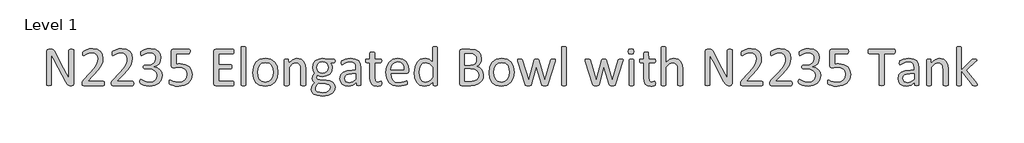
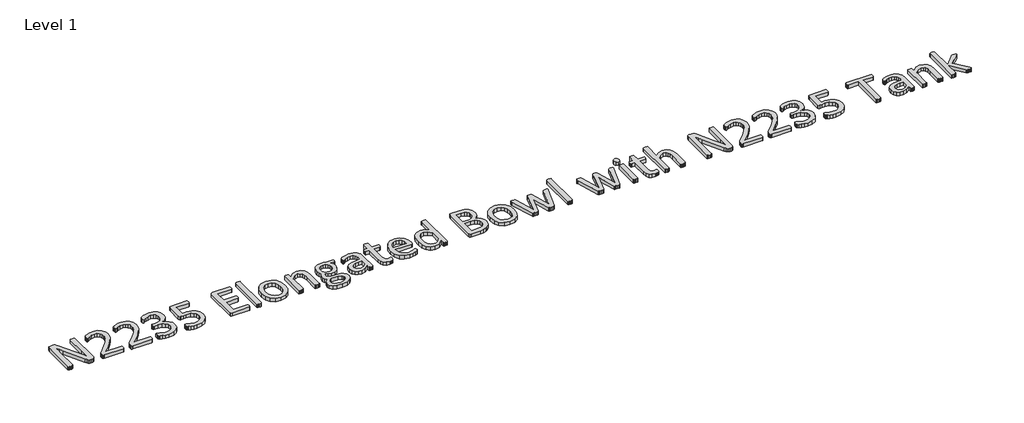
# One storey, part 1 of 2: 1 proxy.
"""IFC4 building model written with IfcOpenShell, lengths in millimetres."""

from ifc_helpers import new_model, si_unit, origin, origin_with_axes, place, context, project, spatial, polyline, outline, extrude, element, save

model = new_model("IFC4")

# Units and contexts
model_context = context("Model", 3, world=origin())
ifc_project = project(units=[si_unit("LENGTHUNIT", "METRE", prefix="MILLI")], contexts=[model_context])

# Site, building, storey
site = spatial("IfcSite", under=ifc_project)
building = spatial("IfcBuilding", under=site)
storey = spatial("IfcBuildingStorey", under=building, Name="Level 1", Elevation=0.0)

# Proxy
placement = place(None, origin())
element("IfcBuildingElementProxy", 1, Name="150MM CALIBRI", ObjectType="150MM CALIBRI", at=placement, inside=storey, context=model_context, shape_type="SweptSolid", body=[
    extrude(outline(polyline([(15422.4142778, -15617.8285664), (15421.6298259, -15621.7059998), (15419.5902511, -15624.3507231), (15416.7662245, -15625.8523881), (15413.6732429, -15626.3006463), (15407.0390216, -15626.3006463), (15401.5926845, -15625.6506719), (15397.1549284, -15623.2749034), (15392.9637143, -15618.5906053), (15388.5707839, -15611.1495192), (15344.1932224, -15526.697675), (15337.2003946, -15512.9809741), (15330.6109991, -15499.0401442), (15330.6109991, -15515.8946524), (15330.6109991, -15533.0181155), (15330.6109991, -15622.6249291), (15330.1179151, -15624.1714198), (15328.4593597, -15625.3144782), (15325.3887911, -15626.0092784), (15320.5251897, -15626.3006463), (15315.6391753, -15626.0092784), (15312.6134325, -15625.3144782), (15311.0221159, -15624.1714198), (15310.5290319, -15622.6249291), (15310.5290319, -15485.5923983), (15313.1737552, -15479.0702416), (15318.956286, -15477.1203184), (15328.8627921, -15477.1203184), (15334.7125616, -15477.7030541), (15338.9261886, -15479.5857385), (15342.5346671, -15483.2390428), (15346.1207327, -15489.1336381), (15380.1883556, -15554.3552057), (15386.2846671, -15566.0099188), (15391.9103075, -15577.1939608), (15397.2894059, -15588.0418092), (15402.5564397, -15598.777593), (15402.3995493, -15579.9507487), (15402.3323106, -15561.1239045), (15402.3323106, -15480.7960356), (15404.4839499, -15478.0840735), (15407.5545186, -15477.3444475), (15412.5525974, -15477.1203184), (15417.2593085, -15477.3444475), (15420.3298772, -15478.0840735), (15421.9211938, -15479.2943707), (15422.4142778, -15617.8285664)])), origin_with_axes(), (0.0, 0.0, 1.0), 15.0),
    extrude(outline(polyline([(15548.643786, -15617.5596114), (15548.3524181, -15621.3473932), (15547.5679663, -15624.1041811), (15546.2231917, -15625.7627364), (15544.3405073, -15626.3006463), (15463.2954253, -15626.3006463), (15460.5386374, -15625.8972139), (15458.4990626, -15624.5524393), (15457.2439397, -15621.8404772), (15456.8405073, -15617.5147856), (15457.0198106, -15613.3908102), (15457.7818495, -15610.2754157), (15459.2611015, -15607.5634536), (15461.5920442, -15604.6946012), (15491.2667368, -15573.4958307), (15507.7402255, -15554.6017477), (15517.3329509, -15539.3833819), (15521.7707071, -15526.9218041), (15522.8241138, -15516.3877364), (15521.1655585, -15506.795011), (15516.3691958, -15498.8608409), (15508.5022645, -15493.4593297), (15497.6320032, -15491.4645807), (15484.7221671, -15493.2800264), (15474.6587706, -15497.2022856), (15467.4418136, -15501.1245448), (15463.116122, -15502.9399905), (15460.6058761, -15501.0573061), (15459.9559018, -15498.4125827), (15459.7093597, -15494.4230848), (15459.8214243, -15491.5766452), (15460.2248567, -15489.4698317), (15460.9644827, -15487.8336893), (15462.8023413, -15485.9061791), (15467.5538782, -15482.7459588), (15476.0035452, -15478.8236995), (15487.232413, -15475.5738276), (15500.0974233, -15474.2514659), (15518.9242675, -15477.3220346), (15532.3271876, -15485.7268758), (15540.2837706, -15498.1212149), (15542.9060811, -15513.1602774), (15541.6285452, -15527.3476493), (15536.2270339, -15542.6108409), (15524.3033659, -15560.8773625), (15503.638663, -15584.0298983), (15479.791327, -15609.0875315), (15544.161204, -15609.0875315), (15545.9542368, -15609.6254414), (15547.4334888, -15611.2167579), (15548.3524181, -15613.8614813), (15548.643786, -15617.5596114)])), origin_with_axes(), (0.0, 0.0, 1.0), 15.0),
    extrude(outline(polyline([(15669.1355893, -15617.5596114), (15668.8442214, -15621.3473932), (15668.0597696, -15624.1041811), (15666.714995, -15625.7627364), (15664.8323106, -15626.3006463), (15583.7872286, -15626.3006463), (15581.0304407, -15625.8972139), (15578.9908659, -15624.5524393), (15577.7357429, -15621.8404772), (15577.3323106, -15617.5147856), (15577.5116138, -15613.3908102), (15578.2736528, -15610.2754157), (15579.7529048, -15607.5634536), (15582.0838474, -15604.6946012), (15611.7585401, -15573.4958307), (15628.2320288, -15554.6017477), (15637.8247542, -15539.3833819), (15642.2625104, -15526.9218041), (15643.3159171, -15516.3877364), (15641.6573618, -15506.795011), (15636.8609991, -15498.8608409), (15628.9940677, -15493.4593297), (15618.1238065, -15491.4645807), (15605.2139704, -15493.2800264), (15595.1505739, -15497.2022856), (15587.9336169, -15501.1245448), (15583.6079253, -15502.9399905), (15581.0976794, -15501.0573061), (15580.447705, -15498.4125827), (15580.201163, -15494.4230848), (15580.3132276, -15491.5766452), (15580.7166599, -15489.4698317), (15581.456286, -15487.8336893), (15583.2941446, -15485.9061791), (15588.0456815, -15482.7459588), (15596.4953485, -15478.8236995), (15607.7242163, -15475.5738276), (15620.5892265, -15474.2514659), (15639.4160708, -15477.3220346), (15652.8189909, -15485.7268758), (15660.7755739, -15498.1212149), (15663.3978843, -15513.1602774), (15662.1203485, -15527.3476493), (15656.7188372, -15542.6108409), (15644.7951692, -15560.8773625), (15624.1304663, -15584.0298983), (15600.2831302, -15609.0875315), (15664.6530073, -15609.0875315), (15666.4460401, -15609.6254414), (15667.9252921, -15611.2167579), (15668.8442214, -15613.8614813), (15669.1355893, -15617.5596114)])), origin_with_axes(), (0.0, 0.0, 1.0), 15.0),
    extrude(outline(polyline([(15786.7585401, -15584.2540274), (15783.2397132, -15602.7895039), (15773.1763167, -15616.93205), (15756.9941958, -15625.9868655), (15735.2536733, -15629.1694987), (15721.4921466, -15627.9367887), (15710.1063884, -15624.9782846), (15701.8584376, -15621.4370448), (15697.7344622, -15618.7923215), (15696.4345134, -15617.1337661), (15695.6500616, -15615.1166043), (15695.1345647, -15612.2253389), (15694.9552614, -15608.0565377), (15695.7621261, -15602.1395295), (15698.0930688, -15600.4809741), (15702.1946313, -15602.2964198), (15710.0839755, -15606.2186791), (15721.3352563, -15610.1409383), (15735.6122798, -15611.956384), (15749.0600257, -15609.9840479), (15758.7872286, -15604.4480592), (15764.7042368, -15595.9759793), (15766.6765729, -15585.2850213), (15764.143914, -15573.8320243), (15756.7476538, -15565.0685766), (15744.756747, -15559.4205233), (15728.5746261, -15557.4481873), (15714.1407122, -15557.4481873), (15712.3028536, -15557.0895807), (15710.7563628, -15555.8792836), (15709.7029561, -15553.6604055), (15709.2995237, -15550.051927), (15709.6581302, -15546.7572293), (15710.6667112, -15544.6280028), (15712.1459632, -15543.4625315), (15714.0510606, -15543.103925), (15727.4091548, -15543.103925), (15741.4620493, -15541.109176), (15751.9961169, -15535.3490582), (15758.6303382, -15526.3614813), (15760.9388679, -15514.6843553), (15759.3923772, -15505.7416043), (15754.7529048, -15498.2781053), (15746.8411477, -15493.2800264), (15735.7467573, -15491.4645807), (15723.0834632, -15493.2800264), (15712.7959376, -15497.2022856), (15705.3100257, -15501.1245448), (15701.1412245, -15502.9399905), (15698.0034171, -15499.1297959), (15697.8241138, -15495.0954721), (15697.9361784, -15492.0697293), (15698.4068495, -15489.7836125), (15699.2361272, -15488.0354055), (15700.8050309, -15486.1527211), (15705.2651999, -15483.0149137), (15713.5803895, -15478.9805899), (15724.9885606, -15475.6186534), (15738.8845647, -15474.2514659), (15757.2855636, -15476.9410151), (15770.4867675, -15484.5614045), (15778.3985247, -15496.350595), (15781.0208352, -15511.5465479), (15779.1605636, -15524.8598164), (15773.7142265, -15535.7524905), (15764.9283659, -15543.843551), (15752.9150462, -15548.4830233), (15766.6093341, -15552.5845858), (15777.2778792, -15560.2722139), (15784.2482942, -15571.0528235), (15786.7585401, -15584.2540274)])), origin_with_axes(), (0.0, 0.0, 1.0), 15.0),
    extrude(outline(polyline([(15910.1191958, -15579.6817938), (15906.0624591, -15600.7275161), (15894.5870493, -15616.2596627), (15876.9256763, -15625.874801), (15854.131747, -15629.1694987), (15840.9305431, -15628.1833307), (15829.8137399, -15625.7403235), (15821.8123311, -15622.893884), (15817.8228331, -15620.6750059), (15816.612536, -15619.150928), (15815.9625616, -15617.4699598), (15815.5591292, -15614.9821268), (15815.4470647, -15611.3736483), (15815.6263679, -15607.8324086), (15816.2763423, -15605.2773368), (15817.3969878, -15603.8204977), (15822.4847184, -15604.6946012), (15829.1189397, -15607.6082795), (15839.4512911, -15610.5667836), (15854.0869212, -15611.956384), (15868.5432481, -15610.1409383), (15879.8617675, -15604.4256463), (15887.3252665, -15594.6536176), (15890.0372286, -15580.3541811), (15887.7735247, -15567.8477774), (15880.8255227, -15558.8377877), (15868.9466804, -15553.4811022), (15851.7559786, -15551.7104823), (15839.5857686, -15552.4052825), (15830.1051077, -15553.1000827), (15825.4432224, -15551.5984178), (15824.053622, -15545.7934741), (15824.053622, -15484.6510561), (15825.8466548, -15478.9805899), (15831.0016241, -15477.1203184), (15897.1197081, -15477.1203184), (15898.9127409, -15477.6358153), (15900.3471671, -15479.1823061), (15901.2212706, -15481.8270295), (15901.5126384, -15485.5923983), (15900.4144059, -15492.0473164), (15897.3438372, -15494.3334332), (15844.1355893, -15494.3334332), (15844.1355893, -15538.1730848), (15852.0025206, -15537.4782846), (15861.2590524, -15537.36622), (15882.5737296, -15540.3919629), (15897.7696825, -15548.9312815), (15906.9813884, -15562.2893758), (15910.1191958, -15579.6817938)])), origin_with_axes(), (0.0, 0.0, 1.0), 15.0),
    extrude(outline(polyline([(16082.2503434, -15617.7389147), (16082.0262143, -15621.5491094), (16081.2193495, -15624.2610715), (16079.8745749, -15625.8299752), (16078.2160196, -15626.3006463), (16006.4498823, -15626.3006463), (16001.4293905, -15624.5076135), (15999.053622, -15618.2319987), (15999.053622, -15485.1889659), (16001.4518034, -15478.9133512), (16006.5395339, -15477.1203184), (16078.2608454, -15477.1203184), (16079.9642265, -15477.5909895), (16081.1969366, -15479.1598932), (16081.9589755, -15481.8718553), (16082.2503434, -15485.9061791), (16081.9589755, -15489.6939608), (16081.1969366, -15492.3610971), (16079.9642265, -15493.862762), (16078.2608454, -15494.3334332), (16019.1355893, -15494.3334332), (16019.1355893, -15540.2350725), (16069.6991138, -15540.2350725), (16071.3576692, -15540.7953952), (16072.6576179, -15542.341886), (16073.4196569, -15545.0538481), (16073.643786, -15549.1554106), (16073.4196569, -15552.9880182), (16072.6576179, -15555.5879157), (16071.3576692, -15557.022342), (16069.6991138, -15557.4481873), (16019.1355893, -15557.4481873), (16019.1355893, -15609.0875315), (16078.2160196, -15609.0875315), (16079.8969878, -15609.5582026), (16081.2193495, -15611.0598676), (16082.0262143, -15613.7270039), (16082.2503434, -15617.7389147)])), origin_with_axes(), (0.0, 0.0, 1.0), 15.0),
    extrude(outline(polyline([(16131.0208352, -15622.7594065), (16130.5277511, -15624.2834844), (16128.9364345, -15625.381717), (16125.9106917, -15626.0765172), (16120.9350257, -15626.3006463), (16116.0490114, -15626.0765172), (16112.9560298, -15625.381717), (16111.3647132, -15624.2834844), (16111.3647132, -15469.3206258), (16111.3647132, -15467.7068963), (16112.9560298, -15466.5638379), (16116.0490114, -15465.8690377), (16120.9350257, -15465.6449086), (16125.9106917, -15465.8690377), (16128.9364345, -15466.5638379), (16130.5277511, -15467.7068963), (16131.0208352, -15469.3206258), (16131.0208352, -15622.7594065)])), origin_with_axes(), (0.0, 0.0, 1.0), 15.0),
    extrude(outline(polyline([(16262.9880483, -15570.6718041), (16259.6709376, -15594.1829465), (16249.7420186, -15612.69601), (16233.2012911, -15624.8213942), (16210.1832327, -15629.1694987), (16187.994452, -15625.3368911), (16172.2157634, -15614.197675), (16162.8023413, -15596.4466504), (16159.7093597, -15572.7786176), (16162.9816446, -15549.2674752), (16172.8433249, -15530.7768245), (16189.3168136, -15518.7186791), (16212.3796979, -15514.4154004), (16234.5908915, -15518.2480079), (16250.36958, -15529.3872241), (16259.827828, -15547.1382487), (16262.9880483, -15570.6718041)]), holes=[polyline([(16242.9060811, -15572.0165786), (16241.3595903, -15556.4396063), (16236.2718597, -15543.5745961), (16226.7015472, -15534.8335612), (16211.6176589, -15531.6285151), (16197.2958095, -15534.5646063), (16187.4341292, -15542.8573829), (16181.6740114, -15555.5430899), (16179.791327, -15571.5683204), (16181.3378177, -15587.2349444), (16186.4703741, -15600.0551289), (16196.1079253, -15608.7513379), (16211.1694007, -15611.956384), (16225.4464243, -15609.0202928), (16235.3753434, -15600.7947549), (16241.0906354, -15588.1538737), (16242.9060811, -15572.0165786)])]), origin_with_axes(), (0.0, 0.0, 1.0), 15.0),
    extrude(outline(polyline([(16377.7421466, -15622.7594065), (16377.2490626, -15624.2834844), (16375.657746, -15625.381717), (16372.6320032, -15626.0765172), (16367.7459888, -15626.3006463), (16362.7703229, -15626.0765172), (16359.74458, -15625.4041299), (16358.1532634, -15624.3283102), (16357.6601794, -15622.7594065), (16357.6601794, -15562.8721114), (16356.3378177, -15548.7968041), (16352.5052102, -15539.5850981), (16345.9830534, -15533.6680899), (16336.7265216, -15531.6285151), (16323.1218854, -15536.626594), (16308.8896876, -15551.30705), (16308.8896876, -15622.7594065), (16308.3966036, -15624.3283102), (16306.805287, -15625.4041299), (16303.7795442, -15626.0765172), (16298.8038782, -15626.3006463), (16293.9178638, -15626.0765172), (16290.8248823, -15625.4041299), (16289.2335657, -15624.3283102), (16288.8077204, -15520.7806668), (16290.6231661, -15518.1359434), (16293.4247798, -15517.4635561), (16297.9521876, -15517.2842528), (16302.3899438, -15517.4635561), (16305.1243188, -15518.1359434), (16306.5363321, -15519.2565889), (16306.9621774, -15534.2732385), (16324.1080534, -15519.1893502), (16341.3435811, -15514.4154004), (16358.4670442, -15517.9118143), (16369.7183249, -15527.2579977), (16375.8818751, -15540.9522856), (16377.7421466, -15559.8239557), (16377.7421466, -15622.7594065)])), origin_with_axes(), (0.0, 0.0, 1.0), 15.0),
    extrude(outline(polyline([(16498.2339499, -15524.5012098), (16497.1357173, -15529.9475469), (16494.3341036, -15531.6285151), (16479.4967573, -15531.6285151), (16485.1448106, -15540.9074598), (16486.7585401, -15551.4415274), (16483.8896876, -15567.3995192), (16475.6641497, -15579.143884), (16462.9336169, -15586.4729055), (16446.5946056, -15589.0055643), (16434.5588731, -15587.3245961), (16425.7505995, -15583.0885561), (16422.1645339, -15587.7728543), (16420.7749335, -15593.8467528), (16424.5851282, -15600.4809741), (16434.7157634, -15603.3498266), (16462.2388167, -15604.5152979), (16476.6727306, -15606.6893502), (16488.0360759, -15612.2253389), (16495.5444007, -15621.0336125), (16498.2339499, -15633.1589967), (16495.23062, -15647.0325879), (16486.018914, -15658.5976493), (16470.1953997, -15666.4645807), (16447.491122, -15669.3334332), (16425.9971415, -15667.1817938), (16411.4735759, -15661.3096114), (16403.248038, -15652.4116862), (16400.6929663, -15641.2276442), (16401.6118956, -15633.7641452), (16404.4359222, -15626.9057948), (16409.1426333, -15620.6974188), (16415.6199643, -15614.8252364), (16406.5203229, -15607.4513891), (16403.5618188, -15597.8362508), (16406.6099745, -15585.0833051), (16414.1407122, -15575.0199086), (16408.4926589, -15565.3823573), (16406.4306712, -15552.3380438), (16409.4115882, -15536.4024649), (16417.7043649, -15524.4787969), (16430.4348977, -15517.0152979), (16446.5946056, -15514.4154004), (16455.3804663, -15515.1774393), (16463.0456815, -15517.2842528), (16494.3341036, -15517.2842528), (16497.2477819, -15519.0548727), (16498.2339499, -15524.5012098)]), holes=[polyline([(16469.5454253, -15551.5760049), (16468.0325539, -15542.0000891), (16463.4939397, -15534.7887354), (16456.1649181, -15530.2669308), (16446.2808249, -15528.7596627), (16436.2846671, -15530.6423471), (16429.2021876, -15535.7973164), (16425.0109735, -15543.350467), (16423.643786, -15552.293218), (16425.1566574, -15561.6169885), (16429.6952716, -15568.699468), (16436.9570544, -15573.1708435), (16446.6394315, -15574.661302), (16456.8373054, -15572.8458563), (16463.9870237, -15567.8029516), (16468.1782378, -15560.3618655), (16469.5454253, -15551.5760049)]), polyline([(16478.1519827, -15633.7865582), (16476.7623823, -15627.4717208), (16472.5935811, -15622.7818194), (16457.5769315, -15618.6802569), (16430.3228331, -15617.6940889), (16424.1592829, -15623.5214454), (16420.3490882, -15628.8108922), (16418.421578, -15633.7641452), (16417.9060811, -15638.80705), (16419.8335913, -15645.8166875), (16425.616122, -15650.8876084), (16447.1325155, -15654.9891709), (16461.8353843, -15653.218551), (16471.3832839, -15648.489427), (16476.583079, -15641.7431411), (16478.1519827, -15633.7865582)])]), origin_with_axes(), (0.0, 0.0, 1.0), 15.0),
    extrude(outline(polyline([(16604.3814909, -15622.8490582), (16603.3953229, -15624.9334588), (16600.7057737, -15625.9644526), (16595.6852819, -15626.3006463), (16590.5975513, -15625.9644526), (16587.8407634, -15624.9334588), (16586.9890729, -15622.8490582), (16586.9890729, -15612.5391196), (16571.8827716, -15624.4627877), (16554.2213987, -15629.1694987), (16539.4064653, -15627.0402723), (16528.1327716, -15620.8767221), (16520.8934018, -15610.9702159), (16518.3159171, -15597.6121217), (16521.8795698, -15582.4161688), (16532.0998567, -15571.7027979), (16548.3940421, -15565.3151186), (16570.0897388, -15563.1858922), (16584.2995237, -15563.1858922), (16584.2995237, -15554.6241606), (16583.0444007, -15543.4177057), (16579.010077, -15535.3042323), (16571.8155329, -15530.418218), (16560.9452716, -15528.7596627), (16548.5061067, -15530.5526954), (16538.8685554, -15534.4973676), (16531.9429663, -15538.4420397), (16527.8189909, -15540.2350725), (16526.2052614, -15539.7644014), (16525.0173772, -15538.3299752), (16524.2777511, -15535.8645551), (16524.053622, -15532.5698573), (16524.4570544, -15527.8631463), (16526.4293905, -15524.5684485), (16531.8084888, -15521.206512), (16540.5943495, -15517.8894014), (16551.4646108, -15515.4015684), (16563.3658659, -15514.4154004), (16582.4168393, -15516.9480592), (16595.1249591, -15524.3443194), (16602.1850257, -15536.4248778), (16604.3814909, -15553.279386), (16604.3814909, -15622.8490582)]), holes=[polyline([(16584.2995237, -15577.5301545), (16568.3415319, -15577.5301545), (16555.0282634, -15578.8525161), (16545.6372542, -15582.7523625), (16540.1460913, -15588.9383256), (16538.3978843, -15597.2535151), (16543.4183761, -15610.0736995), (16557.4936835, -15614.8252364), (16571.1207327, -15611.0374547), (16584.2995237, -15599.4499803), (16584.2995237, -15577.5301545)])]), origin_with_axes(), (0.0, 0.0, 1.0), 15.0),
    extrude(outline(polyline([(16690.4470647, -15615.9907077), (16689.9988065, -15621.5939352), (16688.631619, -15624.6420909), (16685.897244, -15626.4799495), (16681.7508556, -15627.8919629), (16676.7976026, -15628.8108922), (16671.5753946, -15629.1694987), (16657.9259325, -15626.9954465), (16648.6245749, -15620.4284639), (16643.3351282, -15609.2892477), (16641.6765729, -15593.3536688), (16641.6765729, -15531.6285151), (16628.0495237, -15531.6285151), (16625.4272132, -15529.9475469), (16624.4634581, -15524.5012098), (16624.732413, -15521.1616862), (16625.4272132, -15518.8979823), (16626.5702716, -15517.6428594), (16628.1391753, -15517.2842528), (16641.6765729, -15517.2842528), (16641.6765729, -15492.3162713), (16643.6937347, -15489.5818963), (16646.7867163, -15488.8198573), (16651.6727306, -15488.5957282), (16656.6483966, -15488.8198573), (16659.6741395, -15489.5818963), (16661.2654561, -15490.8146063), (16661.7585401, -15517.2842528), (16686.8609991, -15517.2842528), (16689.5057224, -15518.8979823), (16690.2229356, -15521.1616862), (16690.4470647, -15524.5012098), (16689.4608966, -15529.9475469), (16686.8609991, -15531.6285151), (16661.7585401, -15531.6285151), (16661.7585401, -15590.081384), (16664.7394571, -15606.4203952), (16668.9026551, -15610.5723868), (16675.4304151, -15611.956384), (16679.8905841, -15611.440887), (16683.3645852, -15610.3650674), (16685.9868956, -15609.2668348), (16687.9368188, -15608.728925), (16690.2229356, -15612.3598164), (16690.4470647, -15615.9907077)])), origin_with_axes(), (0.0, 0.0, 1.0), 15.0),
    extrude(outline(polyline([(16802.3323106, -15566.458177), (16800.1134325, -15572.7786176), (16795.025702, -15574.661302), (16727.7421466, -15574.661302), (16729.4231149, -15591.2468553), (16735.0039294, -15603.8877364), (16745.1793905, -15612.0012098), (16760.5098208, -15614.8252364), (16773.2403536, -15613.5028748), (16782.9227306, -15610.5219577), (16789.6241907, -15607.5410407), (16793.5912757, -15606.2186791), (16796.4377153, -15609.8047446), (16796.5946056, -15613.0770295), (16796.4825411, -15615.4752108), (16796.1911733, -15617.2906565), (16794.6222696, -15619.9802057), (16790.9689653, -15622.1542579), (16783.1020339, -15625.2472395), (16771.895579, -15627.9592016), (16758.3133556, -15629.1694987), (16736.4159427, -15625.5834332), (16720.6148413, -15614.9148881), (16710.9324643, -15597.1414506), (16707.6601794, -15572.3303594), (16711.0893546, -15548.1244168), (16720.9734479, -15529.925134), (16736.5728331, -15518.4273112), (16757.0582327, -15514.4154004), (16777.6781097, -15518.2928338), (16791.6861784, -15528.7372498), (16799.7548259, -15544.1349188), (16802.3323106, -15563.0065889), (16802.3323106, -15566.458177)]), holes=[polyline([(16782.2503434, -15560.3170397), (16780.7991074, -15547.1550584), (16775.8178382, -15537.1645039), (16767.4298067, -15530.860873), (16755.7582839, -15528.7596627), (16743.812203, -15531.3595602), (16735.2280585, -15538.2851493), (16729.8713731, -15548.3485459), (16727.7421466, -15560.3170397), (16782.2503434, -15560.3170397)])]), origin_with_axes(), (0.0, 0.0, 1.0), 15.0),
    extrude(outline(polyline([(16919.9552614, -15622.7145807), (16919.5294161, -15624.3507231), (16918.072577, -15625.4489557), (16915.3606149, -15626.0765172), (16911.2590524, -15626.3006463), (16907.0005995, -15626.0765172), (16904.2213987, -15625.4937815), (16902.652495, -15624.4852006), (16902.159411, -15610.2530028), (16885.506619, -15624.1714198), (16866.612536, -15629.1694987), (16847.5167368, -15624.7093297), (16834.7189653, -15612.6511842), (16827.5468341, -15594.7656821), (16825.2831302, -15573.1372241), (16828.1071569, -15548.819217), (16836.4447593, -15530.3061534), (16850.1166343, -15518.5393758), (16868.9883044, -15514.4154004), (16885.2824899, -15518.4273112), (16899.8732942, -15530.1940889), (16899.8732942, -15469.3654516), (16900.2991395, -15467.7965479), (16901.9352819, -15466.6310766), (16905.0282634, -15465.9362764), (16909.7798003, -15465.6449086), (16914.7554663, -15465.9362764), (16917.7812091, -15466.6310766), (16919.4173515, -15467.774135), (16919.9552614, -15469.3206258), (16919.9552614, -15622.7145807)]), holes=[polyline([(16899.8732942, -15550.6346627), (16885.4842061, -15536.4921166), (16871.0054663, -15531.6285151), (16859.1266241, -15535.0352774), (16851.192454, -15544.0228543), (16846.7546979, -15556.6637354), (16845.3650974, -15570.9855848), (16846.5305688, -15586.1367118), (16850.5873054, -15599.270677), (16858.2525206, -15608.4823829), (16870.2434274, -15611.956384), (16877.2810811, -15610.947803), (16884.2290831, -15607.6082795), (16891.6477563, -15601.5567938), (16899.8732942, -15592.3675008), (16899.8732942, -15550.6346627)])]), origin_with_axes(), (0.0, 0.0, 1.0), 15.0),
    extrude(outline(polyline([(17109.2995237, -15584.11955), (17107.5289038, -15596.8949086), (17102.5532378, -15607.4289762), (17094.8431968, -15615.6096883), (17084.6677358, -15621.5266965), (17072.5423515, -15625.112762), (17057.7498311, -15626.3006463), (17019.0651487, -15626.3006463), (17014.1118956, -15624.5076135), (17011.7585401, -15618.2319987), (17011.7585401, -15485.1889659), (17014.1343085, -15478.9133512), (17019.1548003, -15477.1203184), (17053.04312, -15477.1203184), (17074.9853587, -15479.697803), (17089.2175565, -15487.1837149), (17097.8017009, -15499.2418604), (17100.6929663, -15515.4015684), (17099.4154304, -15525.689094), (17095.6724745, -15534.7663225), (17089.4416856, -15542.2074086), (17080.8351282, -15547.5865069), (17091.9519315, -15551.7328952), (17100.9619212, -15559.4205233), (17107.0582327, -15570.3356104), (17109.2995237, -15584.11955)]), holes=[polyline([(17080.6109991, -15518.0911176), (17079.1093341, -15508.1846114), (17074.4026231, -15500.6762866), (17066.0201948, -15495.9695756), (17052.3259069, -15494.3334332), (17031.8405073, -15494.3334332), (17031.8405073, -15543.103925), (17054.3878946, -15543.103925), (17066.8046466, -15541.0643502), (17074.6267522, -15535.5956002), (17079.1765729, -15527.5717784), (17080.6109991, -15518.0911176)]), polyline([(17089.2175565, -15584.2988532), (17087.1107429, -15572.7337918), (17080.9471927, -15564.3513635), (17070.7717317, -15559.1963942), (17055.3740626, -15557.4481873), (17031.8405073, -15557.4481873), (17031.8405073, -15609.0875315), (17060.3945544, -15609.0875315), (17072.183745, -15607.4962149), (17081.0368444, -15602.7895039), (17087.0435042, -15595.034637), (17089.2175565, -15584.2988532)])]), origin_with_axes(), (0.0, 0.0, 1.0), 15.0),
    extrude(outline(polyline([(17235.5290319, -15570.6718041), (17232.2119212, -15594.1829465), (17222.2830022, -15612.69601), (17205.7422747, -15624.8213942), (17182.7242163, -15629.1694987), (17160.5354356, -15625.3368911), (17144.756747, -15614.197675), (17135.3433249, -15596.4466504), (17132.2503434, -15572.7786176), (17135.5226282, -15549.2674752), (17145.3843085, -15530.7768245), (17161.8577972, -15518.7186791), (17184.9206815, -15514.4154004), (17207.1318751, -15518.2480079), (17222.9105636, -15529.3872241), (17232.3688116, -15547.1382487), (17235.5290319, -15570.6718041)]), holes=[polyline([(17215.4470647, -15572.0165786), (17213.9005739, -15556.4396063), (17208.8128434, -15543.5745961), (17199.2425309, -15534.8335612), (17184.1586425, -15531.6285151), (17169.8367931, -15534.5646063), (17159.9751128, -15542.8573829), (17154.214995, -15555.5430899), (17152.3323106, -15571.5683204), (17153.8788013, -15587.2349444), (17159.0113577, -15600.0551289), (17168.6489089, -15608.7513379), (17183.7103843, -15611.956384), (17197.9874079, -15609.0202928), (17207.916327, -15600.7947549), (17213.631619, -15588.1538737), (17215.4470647, -15572.0165786)])]), origin_with_axes(), (0.0, 0.0, 1.0), 15.0),
    extrude(outline(polyline([(17406.0016241, -15520.5565377), (17405.777495, -15522.5064608), (17404.9706302, -15525.3080745), (17374.5338987, -15622.2214967), (17373.4356661, -15624.2610715), (17371.3736784, -15625.4937815), (17367.7651999, -15626.121343), (17362.027495, -15626.3006463), (17356.0432481, -15626.0765172), (17352.2106405, -15625.4041299), (17350.081414, -15624.1938327), (17349.0280073, -15622.3111483), (17327.3323106, -15549.8277979), (17306.9813884, -15622.3111483), (17305.9055688, -15624.3058973), (17303.6642778, -15625.5386073), (17299.8316702, -15626.1437559), (17294.0267265, -15626.3006463), (17288.19937, -15626.0765172), (17284.5236528, -15625.4041299), (17282.4168393, -15624.1490069), (17281.3858454, -15622.2214967), (17251.1732429, -15525.3080745), (17250.3663782, -15522.5064608), (17250.1422491, -15520.5565377), (17250.5905073, -15518.9428082), (17252.1369981, -15517.9118143), (17255.0730893, -15517.3963174), (17259.5556712, -15517.2842528), (17264.7330534, -15517.4635561), (17267.7139704, -15518.0238789), (17269.1932224, -15519.1445243), (17270.0000872, -15520.9151442), (17294.9232429, -15605.1876852), (17318.2326692, -15520.9151442), (17319.017121, -15519.1445243), (17320.5636118, -15518.0238789), (17323.3652255, -15517.4635561), (17327.7805688, -15517.2842528), (17332.3303895, -15517.4635561), (17335.1320032, -15518.0238789), (17336.6336681, -15519.0996985), (17337.3284684, -15520.6910151), (17362.027495, -15605.1876852), (17386.9506507, -15520.9151442), (17387.6902768, -15519.1445243), (17389.3040063, -15518.0238789), (17392.2849233, -15517.4635561), (17397.1709376, -15517.2842528), (17401.5862809, -15517.3963174), (17404.2310042, -15517.9566401), (17405.5981917, -15518.987634), (17406.0016241, -15520.5565377)])), origin_with_axes(), (0.0, 0.0, 1.0), 15.0),
    extrude(outline(polyline([(17450.6929663, -15622.7594065), (17450.1998823, -15624.2834844), (17448.6085657, -15625.381717), (17445.5828229, -15626.0765172), (17440.6071569, -15626.3006463), (17435.7211425, -15626.0765172), (17432.628161, -15625.381717), (17431.0368444, -15624.2834844), (17431.0368444, -15469.3206258), (17431.0368444, -15467.7068963), (17432.628161, -15466.5638379), (17435.7211425, -15465.8690377), (17440.6071569, -15465.6449086), (17445.5828229, -15465.8690377), (17448.6085657, -15466.5638379), (17450.1998823, -15467.7068963), (17450.6929663, -15469.3206258), (17450.6929663, -15622.7594065)])), origin_with_axes(), (0.0, 0.0, 1.0), 15.0),
    extrude(outline(polyline([(17684.2803126, -15520.5565377), (17684.0561835, -15522.5064608), (17683.2493188, -15525.3080745), (17652.8125872, -15622.2214967), (17651.7143546, -15624.2610715), (17649.6523669, -15625.4937815), (17646.0438884, -15626.121343), (17640.3061835, -15626.3006463), (17634.3219366, -15626.0765172), (17630.489329, -15625.4041299), (17628.3601026, -15624.1938327), (17627.3066958, -15622.3111483), (17605.6109991, -15549.8277979), (17585.260077, -15622.3111483), (17584.1842573, -15624.3058973), (17581.9429663, -15625.5386073), (17578.1103587, -15626.1437559), (17572.3054151, -15626.3006463), (17566.4780585, -15626.0765172), (17562.8023413, -15625.4041299), (17560.6955278, -15624.1490069), (17559.6645339, -15622.2214967), (17529.4519315, -15525.3080745), (17528.6450667, -15522.5064608), (17528.4209376, -15520.5565377), (17528.8691958, -15518.9428082), (17530.4156866, -15517.9118143), (17533.3517778, -15517.3963174), (17537.8343597, -15517.2842528), (17543.0117419, -15517.4635561), (17545.9926589, -15518.0238789), (17547.471911, -15519.1445243), (17548.2787757, -15520.9151442), (17573.2019315, -15605.1876852), (17596.5113577, -15520.9151442), (17597.2958095, -15519.1445243), (17598.8423003, -15518.0238789), (17601.643914, -15517.4635561), (17606.0592573, -15517.2842528), (17610.609078, -15517.4635561), (17613.4106917, -15518.0238789), (17614.9123567, -15519.0996985), (17615.6071569, -15520.6910151), (17640.3061835, -15605.1876852), (17665.2293393, -15520.9151442), (17665.9689653, -15519.1445243), (17667.5826948, -15518.0238789), (17670.5636118, -15517.4635561), (17675.4496261, -15517.2842528), (17679.8649694, -15517.3963174), (17682.5096927, -15517.9566401), (17683.8768802, -15518.987634), (17684.2803126, -15520.5565377)])), origin_with_axes(), (0.0, 0.0, 1.0), 15.0),
    extrude(outline(polyline([(17728.9716548, -15485.5923983), (17726.5062347, -15494.7592784), (17717.3617675, -15497.2022856), (17708.4414294, -15494.8265172), (17706.0208352, -15485.8613532), (17708.4862552, -15476.6944731), (17717.6307224, -15474.2514659), (17726.5510606, -15476.6272344), (17728.9716548, -15485.5923983)])), origin_with_axes(), (0.0, 0.0, 1.0), 15.0),
    extrude(outline(polyline([(17728.9716548, -15622.8042323), (17728.4785708, -15624.3283102), (17726.8872542, -15625.4041299), (17723.8615114, -15626.0765172), (17718.8858454, -15626.3006463), (17713.9998311, -15626.0765172), (17710.9068495, -15625.4041299), (17709.3155329, -15624.3283102), (17708.8896876, -15520.7806668), (17710.9068495, -15518.1807692), (17713.9998311, -15517.5083819), (17718.8858454, -15517.2842528), (17723.8615114, -15517.5083819), (17726.8872542, -15518.1807692), (17728.4785708, -15519.3238276), (17728.9716548, -15622.8042323)])), origin_with_axes(), (0.0, 0.0, 1.0), 15.0),
    extrude(outline(polyline([(17817.9060811, -15615.9907077), (17817.4578229, -15621.5939352), (17816.0906354, -15624.6420909), (17813.3562604, -15626.4799495), (17809.209872, -15627.8919629), (17804.256619, -15628.8108922), (17799.034411, -15629.1694987), (17785.3849489, -15626.9954465), (17776.0835913, -15620.4284639), (17770.7941446, -15609.2892477), (17769.1355893, -15593.3536688), (17769.1355893, -15531.6285151), (17755.5085401, -15531.6285151), (17752.8862296, -15529.9475469), (17751.9224745, -15524.5012098), (17752.1914294, -15521.1616862), (17752.8862296, -15518.8979823), (17754.029288, -15517.6428594), (17755.5981917, -15517.2842528), (17769.1355893, -15517.2842528), (17769.1355893, -15492.3162713), (17771.1527511, -15489.5818963), (17774.2457327, -15488.8198573), (17779.131747, -15488.5957282), (17784.107413, -15488.8198573), (17787.1331559, -15489.5818963), (17788.7244724, -15490.8146063), (17789.2175565, -15517.2842528), (17814.3200155, -15517.2842528), (17816.9647388, -15518.8979823), (17817.681952, -15521.1616862), (17817.9060811, -15524.5012098), (17816.919913, -15529.9475469), (17814.3200155, -15531.6285151), (17789.2175565, -15531.6285151), (17789.2175565, -15590.081384), (17792.1984735, -15606.4203952), (17796.3616715, -15610.5723868), (17802.8894315, -15611.956384), (17807.3496005, -15611.440887), (17810.8236015, -15610.3650674), (17813.445912, -15609.2668348), (17815.3958352, -15608.728925), (17817.681952, -15612.3598164), (17817.9060811, -15615.9907077)])), origin_with_axes(), (0.0, 0.0, 1.0), 15.0),
    extrude(outline(polyline([(17929.791327, -15622.7594065), (17929.2982429, -15624.2834844), (17927.7069263, -15625.381717), (17924.6811835, -15626.0765172), (17919.7951692, -15626.3006463), (17914.8195032, -15626.0765172), (17911.7937604, -15625.4041299), (17910.2024438, -15624.3283102), (17909.7093597, -15622.7594065), (17909.7093597, -15562.8721114), (17908.3869981, -15548.7968041), (17904.5543905, -15539.5850981), (17898.0322337, -15533.6680899), (17888.775702, -15531.6285151), (17875.1710657, -15536.626594), (17860.9388679, -15551.30705), (17860.9388679, -15622.7594065), (17860.4457839, -15624.3283102), (17858.8544673, -15625.4041299), (17855.8287245, -15626.0765172), (17850.8530585, -15626.3006463), (17845.9670442, -15626.0765172), (17842.8740626, -15625.381717), (17841.282746, -15624.2834844), (17841.282746, -15469.3206258), (17841.282746, -15467.7068963), (17842.8740626, -15466.5638379), (17845.9670442, -15465.8690377), (17850.8530585, -15465.6449086), (17855.8287245, -15465.8690377), (17858.8544673, -15466.5638379), (17860.4457839, -15467.7293092), (17860.9388679, -15469.3206258), (17860.9388679, -15531.3595602), (17877.076163, -15518.5842016), (17893.4375872, -15514.4154004), (17910.5610503, -15517.9118143), (17921.7899181, -15527.2579977), (17927.9310554, -15540.9522856), (17929.791327, -15559.9136073), (17929.791327, -15622.7594065)])), origin_with_axes(), (0.0, 0.0, 1.0), 15.0),
    extrude(outline(polyline([(18133.4798515, -15617.8285664), (18132.6953997, -15621.7059998), (18130.6558249, -15624.3507231), (18127.8317983, -15625.8523881), (18124.7388167, -15626.3006463), (18118.1045954, -15626.3006463), (18112.6582583, -15625.6506719), (18108.2205022, -15623.2749034), (18104.029288, -15618.5906053), (18099.6363577, -15611.1495192), (18055.2587962, -15526.697675), (18048.2659684, -15512.9809741), (18041.6765729, -15499.0401442), (18041.6765729, -15515.8946524), (18041.6765729, -15533.0181155), (18041.6765729, -15622.6249291), (18041.1834888, -15624.1714198), (18039.5249335, -15625.3144782), (18036.4543649, -15626.0092784), (18031.5907634, -15626.3006463), (18026.7047491, -15626.0092784), (18023.6790063, -15625.3144782), (18022.0876897, -15624.1714198), (18021.5946056, -15622.6249291), (18021.5946056, -15485.5923983), (18024.239329, -15479.0702416), (18030.0218597, -15477.1203184), (18039.9283659, -15477.1203184), (18045.7781354, -15477.7030541), (18049.9917624, -15479.5857385), (18053.6002409, -15483.2390428), (18057.1863065, -15489.1336381), (18091.2539294, -15554.3552057), (18097.3502409, -15566.0099188), (18102.9758813, -15577.1939608), (18108.3549796, -15588.0418092), (18113.6220134, -15598.777593), (18113.4651231, -15579.9507487), (18113.3978843, -15561.1239045), (18113.3978843, -15480.7960356), (18115.5495237, -15478.0840735), (18118.6200923, -15477.3444475), (18123.6181712, -15477.1203184), (18128.3248823, -15477.3444475), (18131.3954509, -15478.0840735), (18132.9867675, -15479.2943707), (18133.4798515, -15617.8285664)])), origin_with_axes(), (0.0, 0.0, 1.0), 15.0),
    extrude(outline(polyline([(18259.7093597, -15617.5596114), (18259.4179919, -15621.3473932), (18258.6335401, -15624.1041811), (18257.2887655, -15625.7627364), (18255.4060811, -15626.3006463), (18174.3609991, -15626.3006463), (18171.6042112, -15625.8972139), (18169.5646364, -15624.5524393), (18168.3095134, -15621.8404772), (18167.9060811, -15617.5147856), (18168.0853843, -15613.3908102), (18168.8474233, -15610.2754157), (18170.3266753, -15607.5634536), (18172.6576179, -15604.6946012), (18202.3323106, -15573.4958307), (18218.8057993, -15554.6017477), (18228.3985247, -15539.3833819), (18232.8362809, -15526.9218041), (18233.8896876, -15516.3877364), (18232.2311323, -15506.795011), (18227.4347696, -15498.8608409), (18219.5678382, -15493.4593297), (18208.697577, -15491.4645807), (18195.7877409, -15493.2800264), (18185.7243444, -15497.2022856), (18178.5073874, -15501.1245448), (18174.1816958, -15502.9399905), (18171.6714499, -15501.0573061), (18171.0214755, -15498.4125827), (18170.7749335, -15494.4230848), (18170.8869981, -15491.5766452), (18171.2904304, -15489.4698317), (18172.0300565, -15487.8336893), (18173.8679151, -15485.9061791), (18178.619452, -15482.7459588), (18187.069119, -15478.8236995), (18198.2979868, -15475.5738276), (18211.162997, -15474.2514659), (18229.9898413, -15477.3220346), (18243.3927614, -15485.7268758), (18251.3493444, -15498.1212149), (18253.9716548, -15513.1602774), (18252.694119, -15527.3476493), (18247.2926077, -15542.6108409), (18235.3689397, -15560.8773625), (18214.7042368, -15584.0298983), (18190.8569007, -15609.0875315), (18255.2267778, -15609.0875315), (18257.0198106, -15609.6254414), (18258.4990626, -15611.2167579), (18259.4179919, -15613.8614813), (18259.7093597, -15617.5596114)])), origin_with_axes(), (0.0, 0.0, 1.0), 15.0),
    extrude(outline(polyline([(18380.201163, -15617.5596114), (18379.9097952, -15621.3473932), (18379.1253434, -15624.1041811), (18377.7805688, -15625.7627364), (18375.8978843, -15626.3006463), (18294.8528024, -15626.3006463), (18292.0960145, -15625.8972139), (18290.0564397, -15624.5524393), (18288.8013167, -15621.8404772), (18288.3978843, -15617.5147856), (18288.5771876, -15613.3908102), (18289.3392265, -15610.2754157), (18290.8184786, -15607.5634536), (18293.1494212, -15604.6946012), (18322.8241138, -15573.4958307), (18339.2976026, -15554.6017477), (18348.890328, -15539.3833819), (18353.3280841, -15526.9218041), (18354.3814909, -15516.3877364), (18352.7229356, -15506.795011), (18347.9265729, -15498.8608409), (18340.0596415, -15493.4593297), (18329.1893802, -15491.4645807), (18316.2795442, -15493.2800264), (18306.2161477, -15497.2022856), (18298.9991907, -15501.1245448), (18294.6734991, -15502.9399905), (18292.1632532, -15501.0573061), (18291.5132788, -15498.4125827), (18291.2667368, -15494.4230848), (18291.3788013, -15491.5766452), (18291.7822337, -15489.4698317), (18292.5218597, -15487.8336893), (18294.3597184, -15485.9061791), (18299.1112552, -15482.7459588), (18307.5609222, -15478.8236995), (18318.7897901, -15475.5738276), (18331.6548003, -15474.2514659), (18350.4816446, -15477.3220346), (18363.8845647, -15485.7268758), (18371.8411477, -15498.1212149), (18374.4634581, -15513.1602774), (18373.1859222, -15527.3476493), (18367.784411, -15542.6108409), (18355.8607429, -15560.8773625), (18335.1960401, -15584.0298983), (18311.348704, -15609.0875315), (18375.7185811, -15609.0875315), (18377.5116138, -15609.6254414), (18378.9908659, -15611.2167579), (18379.9097952, -15613.8614813), (18380.201163, -15617.5596114)])), origin_with_axes(), (0.0, 0.0, 1.0), 15.0),
    extrude(outline(polyline([(18497.8241138, -15584.2540274), (18494.305287, -15602.7895039), (18484.2418905, -15616.93205), (18468.0597696, -15625.9868655), (18446.319247, -15629.1694987), (18432.5577204, -15627.9367887), (18421.1719622, -15624.9782846), (18412.9240114, -15621.4370448), (18408.800036, -15618.7923215), (18407.5000872, -15617.1337661), (18406.7156354, -15615.1166043), (18406.2001384, -15612.2253389), (18406.0208352, -15608.0565377), (18406.8276999, -15602.1395295), (18409.1586425, -15600.4809741), (18413.260205, -15602.2964198), (18421.1495493, -15606.2186791), (18432.40083, -15610.1409383), (18446.6778536, -15611.956384), (18460.1255995, -15609.9840479), (18469.8528024, -15604.4480592), (18475.7698106, -15595.9759793), (18477.7421466, -15585.2850213), (18475.2094878, -15573.8320243), (18467.8132276, -15565.0685766), (18455.8223208, -15559.4205233), (18439.6401999, -15557.4481873), (18425.206286, -15557.4481873), (18423.3684274, -15557.0895807), (18421.8219366, -15555.8792836), (18420.7685298, -15553.6604055), (18420.3650974, -15550.051927), (18420.723704, -15546.7572293), (18421.7322849, -15544.6280028), (18423.211537, -15543.4625315), (18425.1166343, -15543.103925), (18438.4747286, -15543.103925), (18452.5276231, -15541.109176), (18463.0616907, -15535.3490582), (18469.695912, -15526.3614813), (18472.0044417, -15514.6843553), (18470.4579509, -15505.7416043), (18465.8184786, -15498.2781053), (18457.9067214, -15493.2800264), (18446.8123311, -15491.4645807), (18434.149037, -15493.2800264), (18423.8615114, -15497.2022856), (18416.3755995, -15501.1245448), (18412.2067983, -15502.9399905), (18409.0689909, -15499.1297959), (18408.8896876, -15495.0954721), (18409.0017522, -15492.0697293), (18409.4724233, -15489.7836125), (18410.3017009, -15488.0354055), (18411.8706046, -15486.1527211), (18416.3307737, -15483.0149137), (18424.6459632, -15478.9805899), (18436.0541343, -15475.6186534), (18449.9501384, -15474.2514659), (18468.3511374, -15476.9410151), (18481.5523413, -15484.5614045), (18489.4640985, -15496.350595), (18492.0864089, -15511.5465479), (18490.2261374, -15524.8598164), (18484.7798003, -15535.7524905), (18475.9939397, -15543.843551), (18463.98062, -15548.4830233), (18477.6749079, -15552.5845858), (18488.343453, -15560.2722139), (18495.3138679, -15571.0528235), (18497.8241138, -15584.2540274)])), origin_with_axes(), (0.0, 0.0, 1.0), 15.0),
    extrude(outline(polyline([(18621.1847696, -15579.6817938), (18617.1280329, -15600.7275161), (18605.6526231, -15616.2596627), (18587.9912501, -15625.874801), (18565.1973208, -15629.1694987), (18551.9961169, -15628.1833307), (18540.8793136, -15625.7403235), (18532.8779048, -15622.893884), (18528.8884069, -15620.6750059), (18527.6781097, -15619.150928), (18527.0281354, -15617.4699598), (18526.624703, -15614.9821268), (18526.5126384, -15611.3736483), (18526.6919417, -15607.8324086), (18527.3419161, -15605.2773368), (18528.4625616, -15603.8204977), (18533.5502921, -15604.6946012), (18540.1845134, -15607.6082795), (18550.5168649, -15610.5667836), (18565.152495, -15611.956384), (18579.6088218, -15610.1409383), (18590.9273413, -15604.4256463), (18598.3908403, -15594.6536176), (18601.1028024, -15580.3541811), (18598.8390985, -15567.8477774), (18591.8910964, -15558.8377877), (18580.0122542, -15553.4811022), (18562.8215524, -15551.7104823), (18550.6513423, -15552.4052825), (18541.1706815, -15553.1000827), (18536.5087962, -15551.5984178), (18535.1191958, -15545.7934741), (18535.1191958, -15484.6510561), (18536.9122286, -15478.9805899), (18542.0671979, -15477.1203184), (18608.1852819, -15477.1203184), (18609.9783147, -15477.6358153), (18611.4127409, -15479.1823061), (18612.2868444, -15481.8270295), (18612.5782122, -15485.5923983), (18611.4799796, -15492.0473164), (18608.409411, -15494.3334332), (18555.201163, -15494.3334332), (18555.201163, -15538.1730848), (18563.0680944, -15537.4782846), (18572.3246261, -15537.36622), (18593.6393034, -15540.3919629), (18608.8352563, -15548.9312815), (18618.0469622, -15562.2893758), (18621.1847696, -15579.6817938)])), origin_with_axes(), (0.0, 0.0, 1.0), 15.0),
    extrude(outline(polyline([(18804.791327, -15485.8613532), (18804.5671979, -15489.7387866), (18803.8275718, -15492.38351), (18802.550036, -15493.862762), (18800.8914806, -15494.3334332), (18758.8896876, -15494.3334332), (18758.8896876, -15622.6249291), (18758.4190165, -15624.2386586), (18756.7828741, -15625.3144782), (18753.6898925, -15626.0092784), (18748.848704, -15626.3006463), (18744.0523413, -15626.0092784), (18740.9145339, -15625.3144782), (18739.2783915, -15624.2386586), (18738.8077204, -15622.6249291), (18738.8077204, -15494.3334332), (18696.8059274, -15494.3334332), (18695.147372, -15493.862762), (18693.9370749, -15492.38351), (18693.1974489, -15489.7387866), (18692.9060811, -15485.8613532), (18693.1974489, -15481.8942682), (18693.9594878, -15479.1150674), (18695.1697849, -15477.5909895), (18696.8507532, -15477.1203184), (18800.8466548, -15477.1203184), (18802.5276231, -15477.5909895), (18803.8051589, -15479.1150674), (18804.5671979, -15481.8942682), (18804.791327, -15485.8613532)])), origin_with_axes(), (0.0, 0.0, 1.0), 15.0),
    extrude(outline(polyline([(18902.3323106, -15622.8490582), (18901.3461425, -15624.9334588), (18898.6565934, -15625.9644526), (18893.6361015, -15626.3006463), (18888.548371, -15625.9644526), (18885.7915831, -15624.9334588), (18884.9398925, -15622.8490582), (18884.9398925, -15612.5391196), (18869.8335913, -15624.4627877), (18852.1722184, -15629.1694987), (18837.3572849, -15627.0402723), (18826.0835913, -15620.8767221), (18818.8442214, -15610.9702159), (18816.2667368, -15597.6121217), (18819.8303895, -15582.4161688), (18830.0506763, -15571.7027979), (18846.3448618, -15565.3151186), (18868.0405585, -15563.1858922), (18882.2503434, -15563.1858922), (18882.2503434, -15554.6241606), (18880.9952204, -15543.4177057), (18876.9608966, -15535.3042323), (18869.7663526, -15530.418218), (18858.8960913, -15528.7596627), (18846.4569263, -15530.5526954), (18836.8193751, -15534.4973676), (18829.893786, -15538.4420397), (18825.7698106, -15540.2350725), (18824.1560811, -15539.7644014), (18822.9681968, -15538.3299752), (18822.2285708, -15535.8645551), (18822.0044417, -15532.5698573), (18822.4078741, -15527.8631463), (18824.3802102, -15524.5684485), (18829.7593085, -15521.206512), (18838.5451692, -15517.8894014), (18849.4154304, -15515.4015684), (18861.3166856, -15514.4154004), (18880.3676589, -15516.9480592), (18893.0757788, -15524.3443194), (18900.1358454, -15536.4248778), (18902.3323106, -15553.279386), (18902.3323106, -15622.8490582)]), holes=[polyline([(18882.2503434, -15577.5301545), (18866.2923515, -15577.5301545), (18852.9790831, -15578.8525161), (18843.5880739, -15582.7523625), (18838.096911, -15588.9383256), (18836.348704, -15597.2535151), (18841.3691958, -15610.0736995), (18855.4445032, -15614.8252364), (18869.0715524, -15611.0374547), (18882.2503434, -15599.4499803), (18882.2503434, -15577.5301545)])]), origin_with_axes(), (0.0, 0.0, 1.0), 15.0),
    extrude(outline(polyline([(19022.8241138, -15622.7594065), (19022.3310298, -15624.2834844), (19020.7397132, -15625.381717), (19017.7139704, -15626.0765172), (19012.8279561, -15626.3006463), (19007.8522901, -15626.0765172), (19004.8265472, -15625.4041299), (19003.2352306, -15624.3283102), (19002.7421466, -15622.7594065), (19002.7421466, -15562.8721114), (19001.4197849, -15548.7968041), (18997.5871774, -15539.5850981), (18991.0650206, -15533.6680899), (18981.8084888, -15531.6285151), (18968.2038526, -15536.626594), (18953.9716548, -15551.30705), (18953.9716548, -15622.7594065), (18953.4785708, -15624.3283102), (18951.8872542, -15625.4041299), (18948.8615114, -15626.0765172), (18943.8858454, -15626.3006463), (18938.9998311, -15626.0765172), (18935.9068495, -15625.4041299), (18934.3155329, -15624.3283102), (18933.8896876, -15520.7806668), (18935.7051333, -15518.1359434), (18938.506747, -15517.4635561), (18943.0341548, -15517.2842528), (18947.471911, -15517.4635561), (18950.206286, -15518.1359434), (18951.6182993, -15519.2565889), (18952.0441446, -15534.2732385), (18969.1900206, -15519.1893502), (18986.4255483, -15514.4154004), (19003.5490114, -15517.9118143), (19014.8002921, -15527.2579977), (19020.9638423, -15540.9522856), (19022.8241138, -15559.8239557), (19022.8241138, -15622.7594065)])), origin_with_axes(), (0.0, 0.0, 1.0), 15.0),
    extrude(outline(polyline([(19143.3159171, -15622.6697549), (19142.845246, -15624.2610715), (19141.2987552, -15625.4041299), (19138.2730124, -15626.0765172), (19133.3197593, -15626.3006463), (19128.2096159, -15626.121343), (19124.8028536, -15625.5610202), (19122.5615626, -15624.4403748), (19120.9926589, -15622.6697549), (19077.3323106, -15566.2340479), (19077.3323106, -15622.8042323), (19076.8392265, -15624.3283102), (19075.2479099, -15625.4041299), (19072.2221671, -15626.0765172), (19067.2465011, -15626.3006463), (19062.3604868, -15626.0765172), (19059.2675052, -15625.381717), (19057.6761886, -15624.2834844), (19057.6761886, -15469.3206258), (19057.6761886, -15467.7068963), (19059.2675052, -15466.5638379), (19062.3604868, -15465.8690377), (19067.2465011, -15465.6449086), (19072.2221671, -15465.8690377), (19075.2479099, -15466.5638379), (19076.8392265, -15467.7293092), (19077.3323106, -15469.3654516), (19077.3323106, -15563.6341504), (19117.2272901, -15521.228925), (19119.222039, -15519.3686534), (19121.7322849, -15518.1359434), (19125.1838731, -15517.4635561), (19130.0026487, -15517.2842528), (19134.9334888, -15517.4635561), (19138.1385349, -15518.0238789), (19139.9091548, -15519.0324598), (19140.4470647, -15520.6910151), (19139.6626128, -15523.4029772), (19137.0403024, -15526.5631975), (19097.4142778, -15563.4996729), (19140.4918905, -15617.3354823), (19142.6659427, -15620.4508768), (19143.3159171, -15622.6697549)])), origin_with_axes(), (0.0, 0.0, 1.0), 15.0),
])

save(model, "model.ifc")
